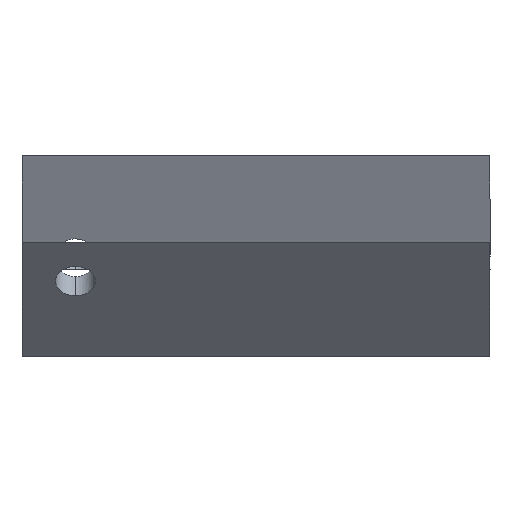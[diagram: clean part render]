
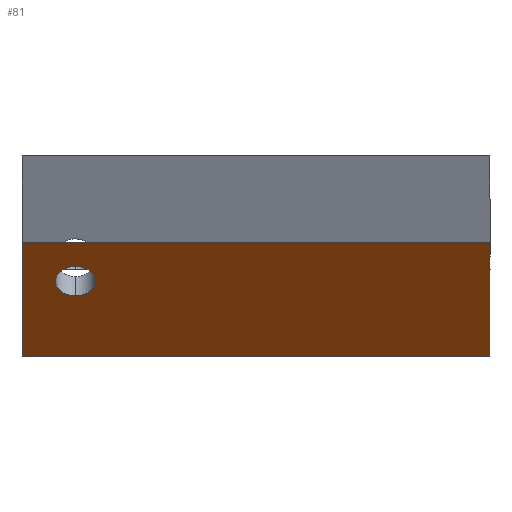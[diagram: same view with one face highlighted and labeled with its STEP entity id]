
A CAD part, left-side view. The second image highlights one B-rep face of the part: STEP entity #81.
In plain terms, the highlighted planar face has unit normal (-0.728, 0, -0.685).
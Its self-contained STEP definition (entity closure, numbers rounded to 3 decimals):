
#6 = EDGE_CURVE ( 'NONE', #7, #56, #168, .T. ) ;
#7 = VERTEX_POINT ( 'NONE', #159 ) ;
#56 = VERTEX_POINT ( 'NONE', #259 ) ;
#75 = VERTEX_POINT ( 'NONE', #280 ) ;
#77 = EDGE_CURVE ( 'NONE', #78, #75, #279, .T. ) ;
#78 = VERTEX_POINT ( 'NONE', #275 ) ;
#81 = ADVANCED_FACE ( 'NONE', ( #270, #269 ), #323, .F. ) ;
#82 = EDGE_LOOP ( 'NONE', ( #83, #85 ) ) ;
#83 = ORIENTED_EDGE ( 'NONE', *, *, #84, .T. ) ;
#84 = EDGE_CURVE ( 'NONE', #56, #7, #318, .T. ) ;
#85 = ORIENTED_EDGE ( 'NONE', *, *, #6, .T. ) ;
#141 = EDGE_LOOP ( 'NONE', ( #142, #145, #148, #150 ) ) ;
#142 = ORIENTED_EDGE ( 'NONE', *, *, #143, .T. ) ;
#143 = EDGE_CURVE ( 'NONE', #75, #144, #380, .T. ) ;
#144 = VERTEX_POINT ( 'NONE', #376 ) ;
#145 = ORIENTED_EDGE ( 'NONE', *, *, #146, .F. ) ;
#146 = EDGE_CURVE ( 'NONE', #147, #144, #375, .T. ) ;
#147 = VERTEX_POINT ( 'NONE', #371 ) ;
#148 = ORIENTED_EDGE ( 'NONE', *, *, #149, .F. ) ;
#149 = EDGE_CURVE ( 'NONE', #78, #147, #370, .T. ) ;
#150 = ORIENTED_EDGE ( 'NONE', *, *, #77, .T. ) ;
#159 = CARTESIAN_POINT ( 'NONE',  ( -5.639, 69., -21.571 ) ) ;
#160 = DIRECTION ( 'NONE',  ( 0.685, 0., -0.728 ) ) ;
#161 = DIRECTION ( 'NONE',  ( 0.728, 0., 0.685 ) ) ;
#162 = CARTESIAN_POINT ( 'NONE',  ( -3.583, 69., -23.756 ) ) ;
#163 = AXIS2_PLACEMENT_3D ( 'NONE', #162, #161, #160 ) ;
#168 = CIRCLE ( 'NONE', #163, 3. ) ;
#259 = CARTESIAN_POINT ( 'NONE',  ( -1.527, 69., -25.94 ) ) ;
#269 = FACE_OUTER_BOUND ( 'NONE', #141, .T. ) ;
#270 = FACE_BOUND ( 'NONE', #82, .T. ) ;
#275 = CARTESIAN_POINT ( 'NONE',  ( 7., 77., -35. ) ) ;
#276 = DIRECTION ( 'NONE',  ( 0., -1., 0. ) ) ;
#277 = VECTOR ( 'NONE', #276, 1000. ) ;
#278 = CARTESIAN_POINT ( 'NONE',  ( 7., 77., -35. ) ) ;
#279 = LINE ( 'NONE', #278, #277 ) ;
#280 = CARTESIAN_POINT ( 'NONE',  ( 7., 7., -35. ) ) ;
#314 = DIRECTION ( 'NONE',  ( 0.685, 0., -0.728 ) ) ;
#315 = DIRECTION ( 'NONE',  ( 0.728, 0., 0.685 ) ) ;
#316 = CARTESIAN_POINT ( 'NONE',  ( -3.583, 69., -23.756 ) ) ;
#317 = AXIS2_PLACEMENT_3D ( 'NONE', #316, #315, #314 ) ;
#318 = CIRCLE ( 'NONE', #317, 3. ) ;
#319 = DIRECTION ( 'NONE',  ( 0.685, 0., -0.728 ) ) ;
#320 = DIRECTION ( 'NONE',  ( 0.728, 0., 0.685 ) ) ;
#321 = CARTESIAN_POINT ( 'NONE',  ( -9., 77., -18. ) ) ;
#322 = AXIS2_PLACEMENT_3D ( 'NONE', #321, #320, #319 ) ;
#323 = PLANE ( 'NONE',  #322 ) ;
#367 = DIRECTION ( 'NONE',  ( -0.685, 0., 0.728 ) ) ;
#368 = VECTOR ( 'NONE', #367, 1000. ) ;
#369 = CARTESIAN_POINT ( 'NONE',  ( -9., 77., -18. ) ) ;
#370 = LINE ( 'NONE', #369, #368 ) ;
#371 = CARTESIAN_POINT ( 'NONE',  ( -9., 77., -18. ) ) ;
#372 = DIRECTION ( 'NONE',  ( 0., -1., 0. ) ) ;
#373 = VECTOR ( 'NONE', #372, 1000. ) ;
#374 = CARTESIAN_POINT ( 'NONE',  ( -9., 77., -18. ) ) ;
#375 = LINE ( 'NONE', #374, #373 ) ;
#376 = CARTESIAN_POINT ( 'NONE',  ( -9., 7., -18. ) ) ;
#377 = DIRECTION ( 'NONE',  ( -0.685, 0., 0.728 ) ) ;
#378 = VECTOR ( 'NONE', #377, 1000. ) ;
#379 = CARTESIAN_POINT ( 'NONE',  ( -9., 7., -18. ) ) ;
#380 = LINE ( 'NONE', #379, #378 ) ;
